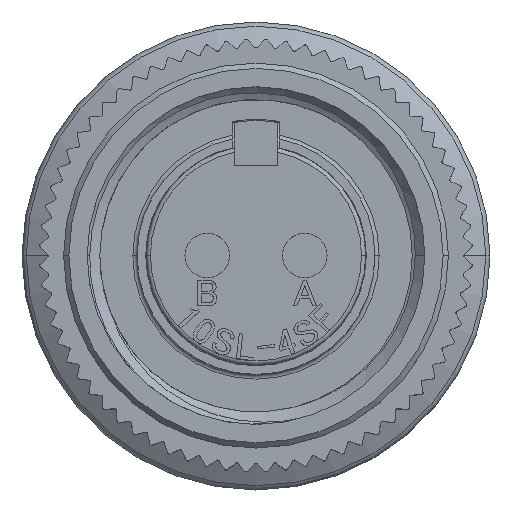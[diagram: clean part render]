
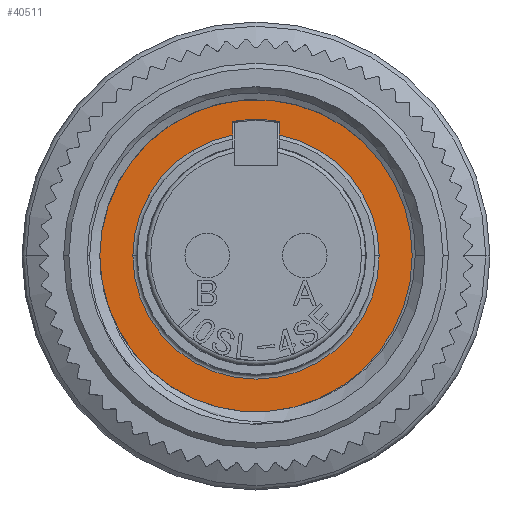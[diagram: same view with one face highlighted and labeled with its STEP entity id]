
A CAD part, top view. The second image highlights one B-rep face of the part: STEP entity #40511.
In plain terms, the highlighted planar face has unit normal (0, 0, 1).
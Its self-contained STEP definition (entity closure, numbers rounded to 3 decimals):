
#1898 = VERTEX_POINT ( 'NONE', #7789 ) ;
#2296 = AXIS2_PLACEMENT_3D ( 'NONE', #12266, #41741, #16516 ) ;
#2496 = CARTESIAN_POINT ( 'NONE',  ( -1.11, 5.635, -12.44 ) ) ;
#2980 = CARTESIAN_POINT ( 'NONE',  ( 1.11, 5.728, -12.44 ) ) ;
#3860 = VECTOR ( 'NONE', #36272, 1000. ) ;
#5896 = CIRCLE ( 'NONE', #43611, 5.835 ) ;
#7789 = CARTESIAN_POINT ( 'NONE',  ( -5.835, 0., -12.44 ) ) ;
#7939 = ORIENTED_EDGE ( 'NONE', *, *, #33721, .T. ) ;
#8366 = DIRECTION ( 'NONE',  ( 0., 0., -1. ) ) ;
#11276 = EDGE_CURVE ( 'NONE', #15792, #20966, #38822, .T. ) ;
#11287 = EDGE_CURVE ( 'NONE', #44093, #48775, #48758, .T. ) ;
#12266 = CARTESIAN_POINT ( 'NONE',  ( 0., 5.635, -12.44 ) ) ;
#13446 = VERTEX_POINT ( 'NONE', #35798 ) ;
#14912 = CARTESIAN_POINT ( 'NONE',  ( -1.11, 6.374, -12.44 ) ) ;
#15792 = VERTEX_POINT ( 'NONE', #47339 ) ;
#16002 = CIRCLE ( 'NONE', #17704, 7.92 ) ;
#16129 = CARTESIAN_POINT ( 'NONE',  ( 0., 0., -12.44 ) ) ;
#16516 = DIRECTION ( 'NONE',  ( -1., 0., 0. ) ) ;
#17704 = AXIS2_PLACEMENT_3D ( 'NONE', #21864, #51354, #26080 ) ;
#18307 = ORIENTED_EDGE ( 'NONE', *, *, #42470, .T. ) ;
#19889 = DIRECTION ( 'NONE',  ( 0., 0., -1. ) ) ;
#20386 = DIRECTION ( 'NONE',  ( -1., 0., 0. ) ) ;
#20571 = PLANE ( 'NONE',  #2296 ) ;
#20966 = VERTEX_POINT ( 'NONE', #14912 ) ;
#21864 = CARTESIAN_POINT ( 'NONE',  ( 0., 0., -12.44 ) ) ;
#22012 = CARTESIAN_POINT ( 'NONE',  ( 0., 0., -12.44 ) ) ;
#22518 = CARTESIAN_POINT ( 'NONE',  ( 1.11, 6.374, -12.44 ) ) ;
#22522 = AXIS2_PLACEMENT_3D ( 'NONE', #33638, #8366, #37865 ) ;
#23030 = CARTESIAN_POINT ( 'NONE',  ( 0., 0., -12.44 ) ) ;
#24494 = CARTESIAN_POINT ( 'NONE',  ( 5.835, 0., -12.44 ) ) ;
#25100 = AXIS2_PLACEMENT_3D ( 'NONE', #22012, #51501, #26216 ) ;
#25623 = EDGE_CURVE ( 'NONE', #1898, #15792, #37221, .T. ) ;
#26080 = DIRECTION ( 'NONE',  ( 1., 0., 0. ) ) ;
#26216 = DIRECTION ( 'NONE',  ( 1., 0., 0. ) ) ;
#26294 = VECTOR ( 'NONE', #48830, 1000. ) ;
#27207 = ORIENTED_EDGE ( 'NONE', *, *, #25623, .T. ) ;
#27263 = DIRECTION ( 'NONE',  ( -1., 0., 0. ) ) ;
#29026 = CIRCLE ( 'NONE', #25100, 7.92 ) ;
#29490 = CARTESIAN_POINT ( 'NONE',  ( 7.92, 0., -12.44 ) ) ;
#30379 = AXIS2_PLACEMENT_3D ( 'NONE', #16129, #45608, #20386 ) ;
#30670 = CIRCLE ( 'NONE', #30379, 6.47 ) ;
#31290 = CIRCLE ( 'NONE', #22522, 5.835 ) ;
#32011 = CARTESIAN_POINT ( 'NONE',  ( 1.11, 5.635, -12.44 ) ) ;
#32748 = VERTEX_POINT ( 'NONE', #29490 ) ;
#33245 = ORIENTED_EDGE ( 'NONE', *, *, #11276, .T. ) ;
#33336 = AXIS2_PLACEMENT_3D ( 'NONE', #45117, #19889, #49362 ) ;
#33638 = CARTESIAN_POINT ( 'NONE',  ( 0., 0., -12.44 ) ) ;
#33721 = EDGE_CURVE ( 'NONE', #32748, #13446, #16002, .T. ) ;
#35355 = ORIENTED_EDGE ( 'NONE', *, *, #11287, .T. ) ;
#35798 = CARTESIAN_POINT ( 'NONE',  ( -7.92, 0., -12.44 ) ) ;
#36272 = DIRECTION ( 'NONE',  ( 0., -1., 0. ) ) ;
#37221 = CIRCLE ( 'NONE', #33336, 5.835 ) ;
#37865 = DIRECTION ( 'NONE',  ( -1., 0., 0. ) ) ;
#38822 = LINE ( 'NONE', #2496, #26294 ) ;
#39186 = ORIENTED_EDGE ( 'NONE', *, *, #53166, .T. ) ;
#40511 = ADVANCED_FACE ( 'NONE', ( #45984, #48643 ), #20571, .F. ) ;
#41315 = EDGE_LOOP ( 'NONE', ( #7939, #45671 ) ) ;
#41741 = DIRECTION ( 'NONE',  ( 0., 0., -1. ) ) ;
#42470 = EDGE_CURVE ( 'NONE', #54430, #1898, #31290, .T. ) ;
#43611 = AXIS2_PLACEMENT_3D ( 'NONE', #23030, #52549, #27263 ) ;
#44093 = VERTEX_POINT ( 'NONE', #22518 ) ;
#45117 = CARTESIAN_POINT ( 'NONE',  ( 0., 0., -12.44 ) ) ;
#45608 = DIRECTION ( 'NONE',  ( 0., 0., -1. ) ) ;
#45671 = ORIENTED_EDGE ( 'NONE', *, *, #46343, .T. ) ;
#45984 = FACE_BOUND ( 'NONE', #46982, .T. ) ;
#46343 = EDGE_CURVE ( 'NONE', #13446, #32748, #29026, .T. ) ;
#46982 = EDGE_LOOP ( 'NONE', ( #54026, #35355, #39186, #18307, #27207, #33245 ) ) ;
#47339 = CARTESIAN_POINT ( 'NONE',  ( -1.11, 5.728, -12.44 ) ) ;
#47703 = EDGE_CURVE ( 'NONE', #20966, #44093, #30670, .T. ) ;
#48643 = FACE_OUTER_BOUND ( 'NONE', #41315, .T. ) ;
#48758 = LINE ( 'NONE', #32011, #3860 ) ;
#48775 = VERTEX_POINT ( 'NONE', #2980 ) ;
#48830 = DIRECTION ( 'NONE',  ( 0., 1., 0. ) ) ;
#49362 = DIRECTION ( 'NONE',  ( -1., 0., 0. ) ) ;
#51354 = DIRECTION ( 'NONE',  ( 0., 0., 1. ) ) ;
#51501 = DIRECTION ( 'NONE',  ( 0., 0., 1. ) ) ;
#52549 = DIRECTION ( 'NONE',  ( 0., 0., -1. ) ) ;
#53166 = EDGE_CURVE ( 'NONE', #48775, #54430, #5896, .T. ) ;
#54026 = ORIENTED_EDGE ( 'NONE', *, *, #47703, .T. ) ;
#54430 = VERTEX_POINT ( 'NONE', #24494 ) ;
